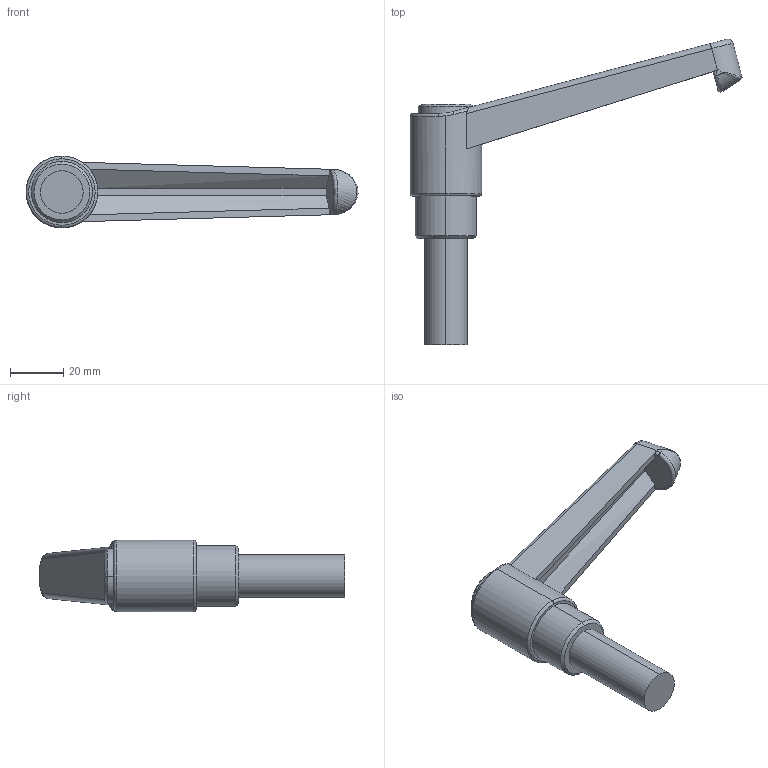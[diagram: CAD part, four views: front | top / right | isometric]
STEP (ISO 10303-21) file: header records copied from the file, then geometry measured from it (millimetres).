
FILE_DESCRIPTION (( 'STEP AP203' ), '1' );
FILE_NAME ('AS-406-108-M16.STEP', '2015-11-23T07:13:18', ( '' ), ( '' ), 'SwSTEP 2.0', 'SolidWorks 2014', '' );
FILE_SCHEMA (( 'CONFIG_CONTROL_DESIGN' ));
Length unit declared in the file: millimetre
Products named in the file (1): AS-406-108-M16
Bounding box: 124.9 x 115.05 x 27 mm (x, y, z)
Volume: 54326 mm3; surface area: 14456.7 mm2
Topology: 1 solids, 1 shells, 57 faces, 135 edges, 83 vertices
Faces by surface type: plane 17, cylinder 16, bspline 13, torus 4, cone 4, sphere 3
Entity records: 2404 total; most frequent: CARTESIAN_POINT 1129, ORIENTED_EDGE 270, DIRECTION 227, EDGE_CURVE 135, AXIS2_PLACEMENT_3D 95, VERTEX_POINT 83, EDGE_LOOP 60, ADVANCED_FACE 57
